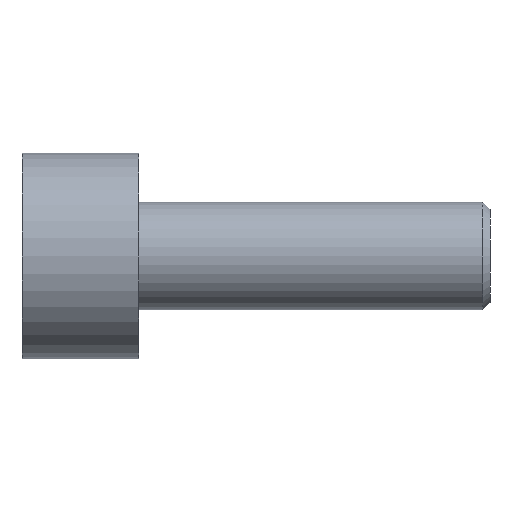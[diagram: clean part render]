
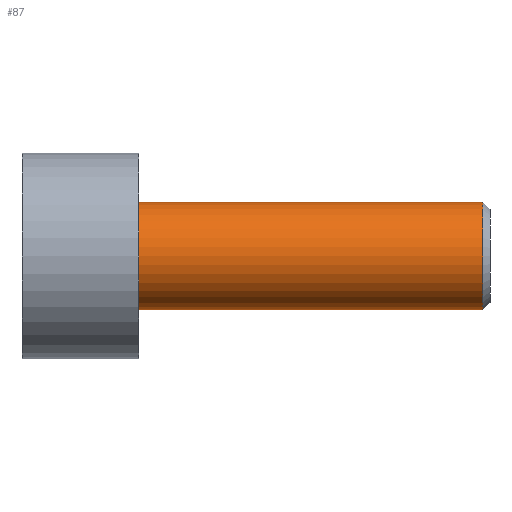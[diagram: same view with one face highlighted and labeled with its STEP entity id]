
A CAD part, front view. The second image highlights one B-rep face of the part: STEP entity #87.
In plain terms, the highlighted cylindrical face has radius 1.15 mm (diameter 2.3 mm), a full revolution.
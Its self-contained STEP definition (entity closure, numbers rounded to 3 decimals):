
#87 = ADVANCED_FACE( '', ( #153, #154 ), #155, .T. );
#153 = FACE_OUTER_BOUND( '', #254, .T. );
#154 = FACE_OUTER_BOUND( '', #255, .T. );
#155 = CYLINDRICAL_SURFACE( '', #256, 1.15 );
#254 = EDGE_LOOP( '', ( #433 ) );
#255 = EDGE_LOOP( '', ( #434 ) );
#256 = AXIS2_PLACEMENT_3D( '', #435, #436, #437 );
#433 = ORIENTED_EDGE( '', *, *, #735, .F. );
#434 = ORIENTED_EDGE( '', *, *, #736, .T. );
#435 = CARTESIAN_POINT( '', ( 7.5, 0., 0. ) );
#436 = DIRECTION( '', ( -1., 0., 0. ) );
#437 = DIRECTION( '', ( 0., 0., -1. ) );
#735 = EDGE_CURVE( '', #891, #891, #892, .T. );
#736 = EDGE_CURVE( '', #893, #893, #894, .T. );
#891 = VERTEX_POINT( '', #1106 );
#892 = CIRCLE( '', #1107, 1.15 );
#893 = VERTEX_POINT( '', #1108 );
#894 = CIRCLE( '', #1109, 1.15 );
#1106 = CARTESIAN_POINT( '', ( 7.347, 0., -1.15 ) );
#1107 = AXIS2_PLACEMENT_3D( '', #1338, #1339, #1340 );
#1108 = CARTESIAN_POINT( '', ( 0., 0., -1.15 ) );
#1109 = AXIS2_PLACEMENT_3D( '', #1341, #1342, #1343 );
#1338 = CARTESIAN_POINT( '', ( 7.347, 0., 0. ) );
#1339 = DIRECTION( '', ( 1., 0., 0. ) );
#1340 = DIRECTION( '', ( 0., 0., -1. ) );
#1341 = CARTESIAN_POINT( '', ( 0., 0., 0. ) );
#1342 = DIRECTION( '', ( 1., 0., 0. ) );
#1343 = DIRECTION( '', ( 0., 0., -1. ) );
